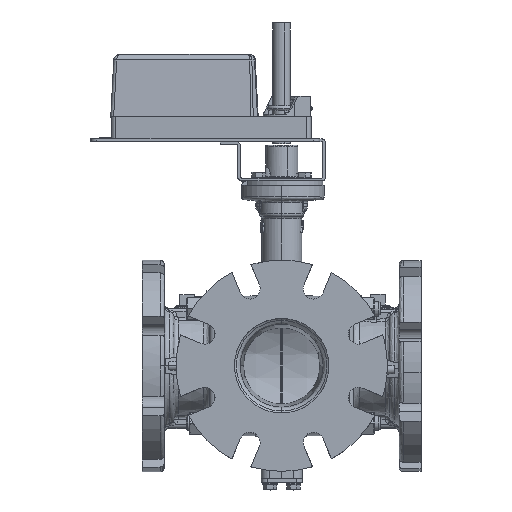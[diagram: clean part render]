
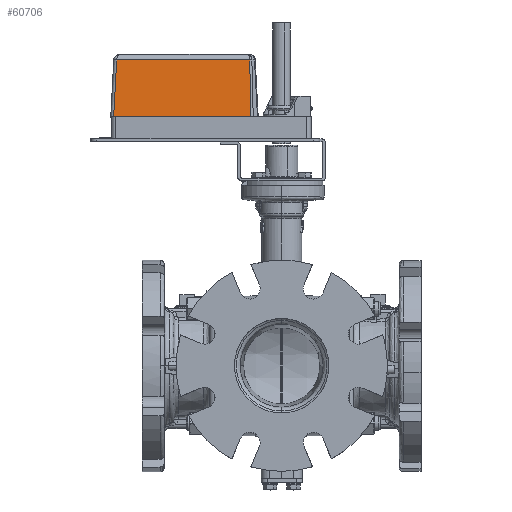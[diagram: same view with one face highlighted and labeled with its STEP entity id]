
A CAD part, top view. The second image highlights one B-rep face of the part: STEP entity #60706.
In plain terms, the highlighted planar face has unit normal (0, 0.052, 0.999).
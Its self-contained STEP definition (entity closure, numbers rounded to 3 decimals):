
#1006 = DIRECTION ( 'NONE',  ( -0.024, 0.998, -0.052 ) ) ;
#2094 = DIRECTION ( 'NONE',  ( 0., 0.052, 0.999 ) ) ;
#4253 = CARTESIAN_POINT ( 'NONE',  ( -178.694, 331.053, 61.894 ) ) ;
#5721 = VECTOR ( 'NONE', #30821, 1000. ) ;
#8194 = CARTESIAN_POINT ( 'NONE',  ( -33.321, 269.507, 65.12 ) ) ;
#12197 = CARTESIAN_POINT ( 'NONE',  ( -181.549, 331.053, 61.894 ) ) ;
#12349 = VECTOR ( 'NONE', #51741, 1000. ) ;
#16709 = ORIENTED_EDGE ( 'NONE', *, *, #22921, .T. ) ;
#17681 = AXIS2_PLACEMENT_3D ( 'NONE', #58301, #2094, #59784 ) ;
#21295 = VECTOR ( 'NONE', #1006, 1000. ) ;
#22716 = EDGE_CURVE ( 'NONE', #56962, #23623, #40376, .T. ) ;
#22921 = EDGE_CURVE ( 'NONE', #31972, #31212, #59260, .T. ) ;
#23623 = VERTEX_POINT ( 'NONE', #35415 ) ;
#27028 = CARTESIAN_POINT ( 'NONE',  ( -181.919, 269.507, 65.12 ) ) ;
#28921 = CARTESIAN_POINT ( 'NONE',  ( -185.09, 269.507, 65.12 ) ) ;
#30821 = DIRECTION ( 'NONE',  ( -0.052, -0.997, 0.052 ) ) ;
#31212 = VERTEX_POINT ( 'NONE', #27028 ) ;
#31341 = FACE_OUTER_BOUND ( 'NONE', #53780, .T. ) ;
#31972 = VERTEX_POINT ( 'NONE', #4253 ) ;
#33585 = LINE ( 'NONE', #12197, #50065 ) ;
#35415 = CARTESIAN_POINT ( 'NONE',  ( -34.77, 331.053, 61.894 ) ) ;
#40376 = LINE ( 'NONE', #68435, #21295 ) ;
#43447 = ORIENTED_EDGE ( 'NONE', *, *, #22716, .T. ) ;
#43476 = ORIENTED_EDGE ( 'NONE', *, *, #52447, .T. ) ;
#48033 = CARTESIAN_POINT ( 'NONE',  ( -181.928, 269.341, 65.129 ) ) ;
#49856 = EDGE_CURVE ( 'NONE', #23623, #31972, #33585, .T. ) ;
#50065 = VECTOR ( 'NONE', #57510, 1000. ) ;
#51741 = DIRECTION ( 'NONE',  ( 1., 0., 0. ) ) ;
#52447 = EDGE_CURVE ( 'NONE', #31212, #56962, #73504, .T. ) ;
#53780 = EDGE_LOOP ( 'NONE', ( #43476, #43447, #59206, #16709 ) ) ;
#56962 = VERTEX_POINT ( 'NONE', #8194 ) ;
#57510 = DIRECTION ( 'NONE',  ( -1., 0., 0. ) ) ;
#58301 = CARTESIAN_POINT ( 'NONE',  ( -185.09, 269.507, 65.12 ) ) ;
#59206 = ORIENTED_EDGE ( 'NONE', *, *, #49856, .T. ) ;
#59260 = LINE ( 'NONE', #48033, #5721 ) ;
#59784 = DIRECTION ( 'NONE',  ( 0., -0.999, 0.052 ) ) ;
#60706 = ADVANCED_FACE ( 'NONE', ( #31341 ), #71027, .T. ) ;
#68435 = CARTESIAN_POINT ( 'NONE',  ( -33.405, 273.068, 64.933 ) ) ;
#71027 = PLANE ( 'NONE',  #17681 ) ;
#73504 = LINE ( 'NONE', #28921, #12349 ) ;
